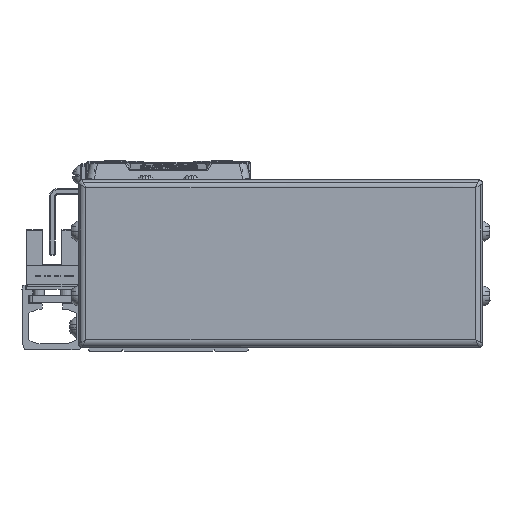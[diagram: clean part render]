
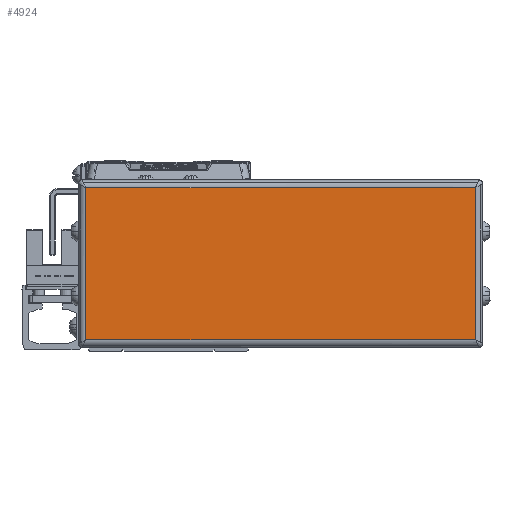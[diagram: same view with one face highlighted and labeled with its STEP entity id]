
A CAD part, left-side view. The second image highlights one B-rep face of the part: STEP entity #4924.
In plain terms, the highlighted planar face has unit normal (-1, 0, 0).
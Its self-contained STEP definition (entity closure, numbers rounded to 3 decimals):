
#4924=ADVANCED_FACE('',(#10995),#10996,.T.);
#10995=FACE_OUTER_BOUND('',#20480,.T.);
#10996=PLANE('',#20481);
#20480=EDGE_LOOP('',(#35513,#35514,#35515,#35516));
#20481=AXIS2_PLACEMENT_3D('',#35517,#35518,#35519);
#35513=ORIENTED_EDGE('',*,*,#51931,.F.);
#35514=ORIENTED_EDGE('',*,*,#51932,.F.);
#35515=ORIENTED_EDGE('',*,*,#49555,.F.);
#35516=ORIENTED_EDGE('',*,*,#51933,.F.);
#35517=CARTESIAN_POINT('',(-48.,-29.5,-4.));
#35518=DIRECTION('',(-1.0,0.,0.));
#35519=DIRECTION('',(0.,0.,1.0));
#49555=EDGE_CURVE('',#59999,#60001,#60002,.T.);
#51931=EDGE_CURVE('',#59183,#55955,#63499,.T.);
#51932=EDGE_CURVE('',#60001,#59183,#63500,.T.);
#51933=EDGE_CURVE('',#55955,#59999,#63501,.T.);
#55955=VERTEX_POINT('',#68587);
#59183=VERTEX_POINT('',#73028);
#59999=VERTEX_POINT('',#74261);
#60001=VERTEX_POINT('',#74263);
#60002=LINE('',#74264,#74265);
#63499=LINE('',#79498,#79499);
#63500=LINE('',#79500,#79501);
#63501=LINE('',#79502,#79503);
#68587=CARTESIAN_POINT('',(-48.,-80.7,16.));
#73028=CARTESIAN_POINT('',(-48.,21.7,16.));
#74261=CARTESIAN_POINT('',(-48.,-80.7,-24.));
#74263=CARTESIAN_POINT('',(-48.,21.7,-24.));
#74264=CARTESIAN_POINT('',(-48.,-29.5,-24.));
#74265=VECTOR('',#88585,10.0);
#79498=CARTESIAN_POINT('',(-48.,-29.5,16.));
#79499=VECTOR('',#91527,10.0);
#79500=CARTESIAN_POINT('',(-48.,21.7,-4.));
#79501=VECTOR('',#91528,10.0);
#79502=CARTESIAN_POINT('',(-48.,-80.7,-4.));
#79503=VECTOR('',#91529,10.0);
#88585=DIRECTION('',(0.,1.0,0.));
#91527=DIRECTION('',(0.,-1.0,0.));
#91528=DIRECTION('',(0.,0.,1.0));
#91529=DIRECTION('',(0.,0.,-1.0));
